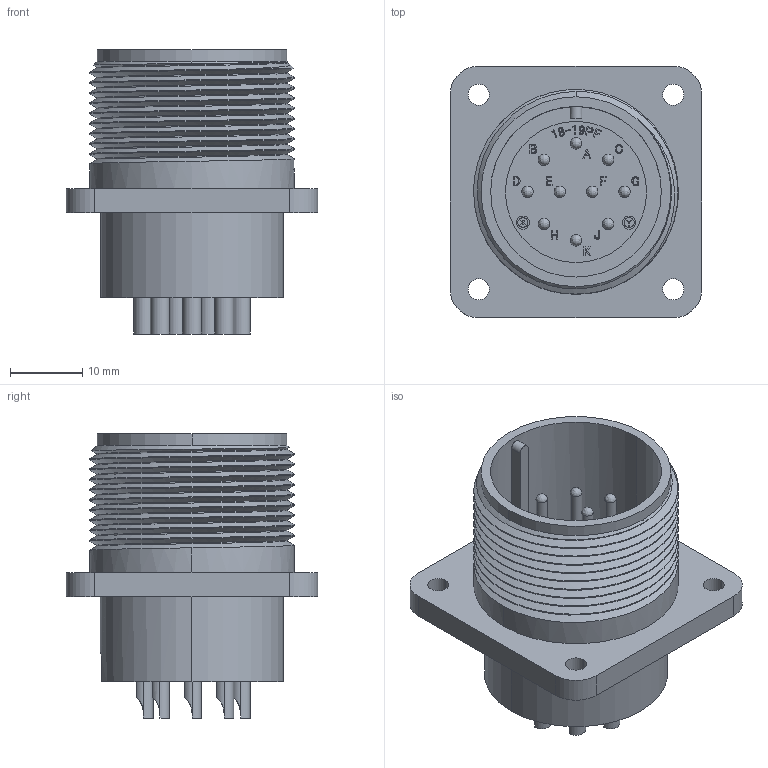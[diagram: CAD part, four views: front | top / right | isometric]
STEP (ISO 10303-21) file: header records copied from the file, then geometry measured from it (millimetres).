
FILE_DESCRIPTION (( 'STEP AP203' ), '1' );
FILE_NAME ('DMS3102A18-19P.STEP', '2017-05-16T00:46:33', ( '' ), ( '' ), 'SwSTEP 2.0', 'SolidWorks 2015', '' );
FILE_SCHEMA (( 'CONFIG_CONTROL_DESIGN' ));
Length unit declared in the file: millimetre
Products named in the file (1): DMS3102A18-19P
Bounding box: 34.92 x 34.92 x 39.45 mm (x, y, z)
Volume: 12477.2 mm3; surface area: 10227.8 mm2
Topology: 1 solids, 1 shells, 1006 faces, 2704 edges, 1751 vertices
Faces by surface type: plane 447, bspline 308, cylinder 229, cone 22
Entity records: 41481 total; most frequent: CARTESIAN_POINT 18614, ORIENTED_EDGE 5328, DIRECTION 3657, EDGE_CURVE 2664, VERTEX_POINT 1751, VECTOR 1585, LINE 1585, EDGE_LOOP 1107
